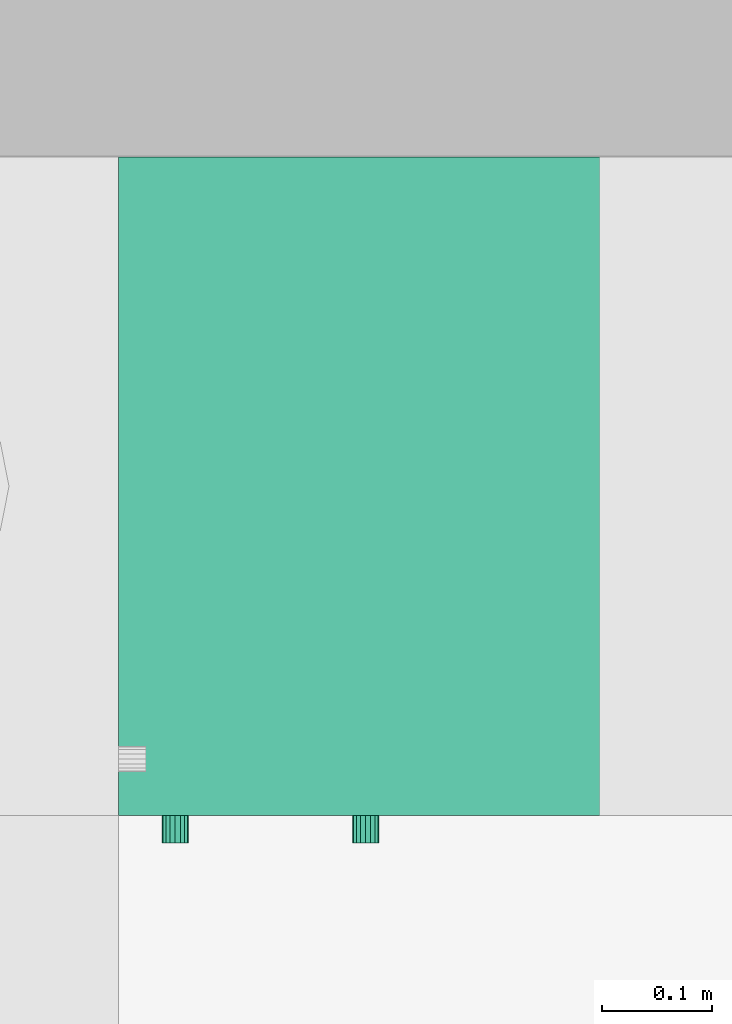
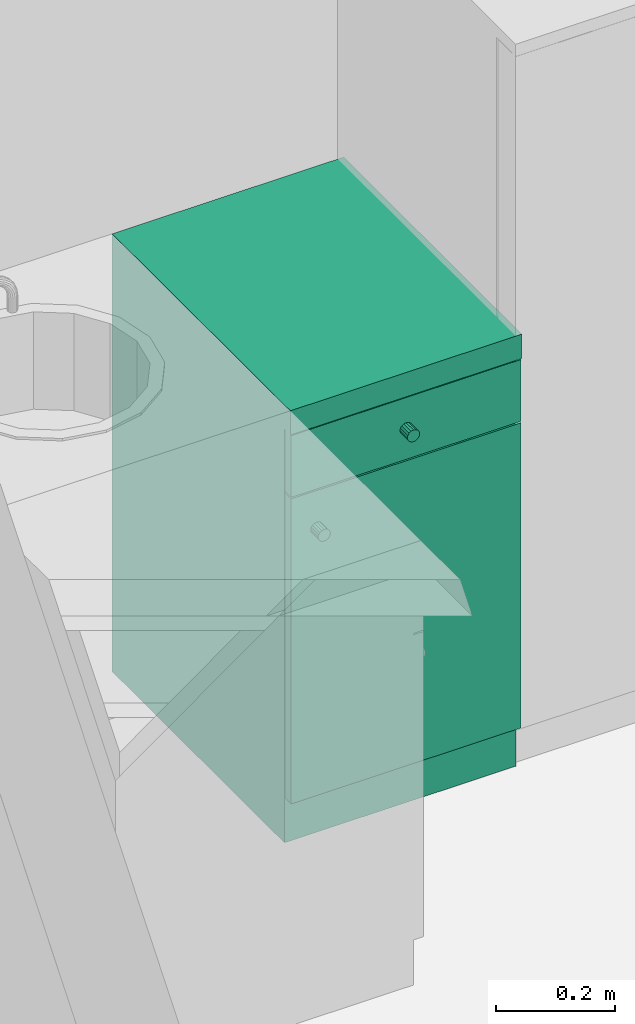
# One storey, part 63 of 172: 1 flow terminal.
"""IFC2X3 building model written with IfcOpenShell, lengths in millimetres."""

from ifc_helpers import new_model, entity, si_unit, converted_unit, money_unit, direction, frame, origin_with_axes, place, context, subcontext, project, spatial, faceted_brep, source, transform, mapped, material, material_list, type_object, element, save


model = new_model("IFC2X3")

# Units and contexts
model_context = context("Model", 3, precision=1e-05, world=origin_with_axes(), true_north=direction((0.0, 1.0)))
body_context = subcontext(model_context, "Body", "Model", "MODEL_VIEW")
ifc_project = project(units=[si_unit("LENGTHUNIT", "METRE", prefix="MILLI"), si_unit("AREAUNIT", "SQUARE_METRE"), si_unit("VOLUMEUNIT", "CUBIC_METRE"), converted_unit("PLANEANGLEUNIT", "DEGREE", entity("IfcPlaneAngleMeasure", 0.0174532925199), si_unit("PLANEANGLEUNIT", "RADIAN"), dimensions=[0, 0, 0, 0, 0, 0, 0]), si_unit("SOLIDANGLEUNIT", "STERADIAN"), money_unit("USD"), converted_unit("TIMEUNIT", "Year", entity("IfcTimeMeasure", 31556926.0), si_unit("TIMEUNIT", "SECOND"), dimensions=[0, 0, 0, 0, 0, 0, 0]), si_unit("MASSUNIT", "GRAM"), si_unit("THERMODYNAMICTEMPERATUREUNIT", "DEGREE_CELSIUS"), si_unit("LUMINOUSINTENSITYUNIT", "LUMEN")], contexts=[model_context])

# Site, building, storey
site_placement = place(None, origin_with_axes())
site = spatial("IfcSite", under=ifc_project, at=site_placement, Name="Site", CompositionType="ELEMENT")
building_placement = place(site_placement, origin_with_axes())
building = spatial("IfcBuilding", under=site, at=building_placement, Name="Building", CompositionType="ELEMENT")
storey_placement = place(building_placement, frame((0.0, 0.0, 3200.0), z_axis=(0.0, 0.0, 1.0), x_axis=(1.0, 0.0, 0.0)))
storey = spatial("IfcBuildingStorey", under=building, at=storey_placement, Name="3KORRUS", CompositionType="ELEMENT", Elevation=3200.0)

# Flow terminal
ifc_material = material(Name="Background")
ifc_material_list = material_list([ifc_material])
sanitary_terminal_type = type_object("IfcSanitaryTerminalType", Name="Cabinet Base Single Door 19", PredefinedType="SINK")
shared_shape = source(origin_with_axes(), body_context, "Body", "Brep", [
    faceted_brep([(-20.0, 20.0, 710.0), (-20.0, 20.0, 730.0), (-430.0, 20.0, 730.0), (-430.0, 20.0, 710.0), (-20.0, 580.0, 710.0), (-20.0, 580.0, 730.0), (-430.0, 580.0, 730.0), (-430.0, 580.0, 710.0)], [[[0, 1, 2, 3]], [[4, 5, 1, 0]], [[1, 5, 6, 2]], [[3, 2, 6, 7]], [[0, 3, 7, 4]], [[7, 6, 5, 4]]]),
    faceted_brep([(0.0, 20.0, 0.0), (0.0, 20.0, 90.0), (-450.0, 20.0, 90.0), (-450.0, 20.0, 0.0), (0.0, 600.0, 0.0), (0.0, 600.0, 90.0), (-450.0, 600.0, 90.0), (-450.0, 600.0, 0.0)], [[[0, 1, 2, 3]], [[4, 5, 1, 0]], [[1, 5, 6, 2]], [[3, 2, 6, 7]], [[0, 3, 7, 4]], [[7, 6, 5, 4]]]),
    faceted_brep([(0.0, 20.0, 830.0), (0.0, 20.0, 850.0), (-20.0, 20.0, 850.0), (-20.0, 20.0, 830.0), (0.0, 600.0, 830.0), (0.0, 600.0, 850.0), (-20.0, 600.0, 850.0), (-430.0, 600.0, 850.0), (-450.0, 600.0, 850.0), (-450.0, 20.0, 850.0), (-430.0, 20.0, 850.0), (-430.0, 20.0, 830.0), (-450.0, 20.0, 830.0), (-450.0, 600.0, 830.0), (-430.0, 600.0, 830.0), (-20.0, 600.0, 830.0)], [[[0, 1, 2, 3]], [[4, 5, 1, 0]], [[1, 5, 6, 7, 8, 9, 10, 2]], [[3, 2, 10, 11]], [[0, 3, 11, 12, 13, 14, 15, 4]], [[15, 6, 5, 4]], [[14, 7, 6, 15]], [[13, 8, 7, 14]], [[12, 9, 8, 13]], [[11, 10, 9, 12]]]),
    faceted_brep([(0.0, 20.0, 90.0), (0.0, 20.0, 110.0), (-20.0, 20.0, 110.0), (-20.0, 20.0, 90.0), (0.0, 600.0, 90.0), (0.0, 600.0, 110.0), (-20.0, 600.0, 110.0), (-430.0, 600.0, 110.0), (-450.0, 600.0, 110.0), (-450.0, 20.0, 110.0), (-430.0, 20.0, 110.0), (-430.0, 20.0, 90.0), (-450.0, 20.0, 90.0), (-450.0, 600.0, 90.0), (-430.0, 600.0, 90.0), (-20.0, 600.0, 90.0)], [[[0, 1, 2, 3]], [[4, 5, 1, 0]], [[1, 5, 6, 7, 8, 9, 10, 2]], [[3, 2, 10, 11]], [[0, 3, 11, 12, 13, 14, 15, 4]], [[15, 6, 5, 4]], [[14, 7, 6, 15]], [[13, 8, 7, 14]], [[12, 9, 8, 13]], [[11, 10, 9, 12]]]),
    faceted_brep([(0.0, 20.0, 110.0), (0.0, 20.0, 830.0), (-20.0, 20.0, 830.0), (-20.0, 20.0, 110.0), (0.0, 600.0, 110.0), (0.0, 600.0, 830.0), (-450.0, 600.0, 830.0), (-450.0, 20.0, 830.0), (-430.0, 20.0, 830.0), (-430.0, 580.0, 830.0), (-20.0, 580.0, 830.0), (-20.0, 580.0, 110.0), (-430.0, 580.0, 110.0), (-430.0, 20.0, 110.0), (-450.0, 20.0, 110.0), (-450.0, 600.0, 110.0)], [[[0, 1, 2, 3]], [[4, 5, 1, 0]], [[1, 5, 6, 7, 8, 9, 10, 2]], [[3, 2, 10, 11]], [[0, 3, 11, 12, 13, 14, 15, 4]], [[15, 6, 5, 4]], [[14, 7, 6, 15]], [[13, 8, 7, 14]], [[12, 9, 8, 13]], [[11, 10, 9, 12]]]),
    faceted_brep([(-430.0, 20.0, 385.0), (-430.0, 20.0, 405.0), (-430.0, 580.0, 405.0), (-430.0, 580.0, 385.0), (-20.0, 20.0, 385.0), (-20.0, 20.0, 405.0), (-20.0, 580.0, 405.0), (-20.0, 580.0, 385.0)], [[[0, 1, 2, 3]], [[4, 5, 1, 0]], [[1, 5, 6, 2]], [[3, 2, 6, 7]], [[0, 3, 7, 4]], [[7, 6, 5, 4]]]),
    faceted_brep([(0.0, 0.0, 850.0), (0.0, 0.0, 900.0), (-450.0, 0.0, 900.0), (-450.0, 0.0, 850.0), (0.0, 600.0, 850.0), (0.0, 600.0, 900.0), (-450.0, 600.0, 900.0), (-450.0, 600.0, 850.0)], [[[0, 1, 2, 3]], [[4, 5, 1, 0]], [[1, 5, 6, 2]], [[3, 2, 6, 7]], [[0, 3, 7, 4]], [[7, 6, 5, 4]]]),
    faceted_brep([(-1.5, 20.0, 721.5), (-1.5, 0.0, 721.5), (-448.5, 0.0, 721.5), (-448.5, 20.0, 721.5), (-1.5, 20.0, 848.5), (-1.5, 0.0, 848.5), (-448.5, 0.0, 848.5), (-448.5, 20.0, 848.5)], [[[0, 1, 2, 3]], [[4, 5, 1, 0]], [[1, 5, 6, 2]], [[3, 2, 6, 7]], [[0, 3, 7, 4]], [[7, 6, 5, 4]]]),
    faceted_brep([(-220.408, 0.0, 773.913), (-225.0, 0.0, 773.0), (-229.592, 0.0, 773.913), (-233.485, 0.0, 776.515), (-236.087, 0.0, 780.408), (-237.0, 0.0, 785.0), (-236.087, 0.0, 789.592), (-233.485, 0.0, 793.485), (-229.592, 0.0, 796.087), (-225.0, 0.0, 797.0), (-220.408, 0.0, 796.087), (-216.515, 0.0, 793.485), (-213.913, 0.0, 789.592), (-213.0, 0.0, 785.0), (-213.913, 0.0, 780.408), (-216.515, 0.0, 776.515), (-220.408, -25.0, 773.913), (-225.0, -25.0, 773.0), (-229.592, -25.0, 773.913), (-233.485, -25.0, 776.515), (-236.087, -25.0, 780.408), (-237.0, -25.0, 785.0), (-236.087, -25.0, 789.592), (-233.485, -25.0, 793.485), (-229.592, -25.0, 796.087), (-225.0, -25.0, 797.0), (-220.408, -25.0, 796.087), (-216.515, -25.0, 793.485), (-213.913, -25.0, 789.592), (-213.0, -25.0, 785.0), (-213.913, -25.0, 780.408), (-216.515, -25.0, 776.515)], [[[0, 1, 2, 3, 4, 5, 6, 7, 8, 9, 10, 11, 12, 13, 14, 15]], [[0, 16, 17, 1]], [[1, 17, 18, 2]], [[2, 18, 19, 3]], [[3, 19, 20, 4]], [[4, 20, 21, 5]], [[5, 21, 22, 6]], [[6, 22, 23, 7]], [[7, 23, 24, 8]], [[8, 24, 25, 9]], [[9, 25, 26, 10]], [[10, 26, 27, 11]], [[11, 27, 28, 12]], [[12, 28, 29, 13]], [[13, 29, 30, 14]], [[14, 30, 31, 15]], [[15, 31, 16, 0]], [[16, 31, 30, 29, 28, 27, 26, 25, 24, 23, 22, 21, 20, 19, 18, 17]]]),
    faceted_brep([(-1.5, 20.0, 91.5), (-1.5, 0.0, 91.5), (-448.5, 0.0, 91.5), (-448.5, 20.0, 91.5), (-1.5, 20.0, 718.5), (-1.5, 0.0, 718.5), (-448.5, 0.0, 718.5), (-448.5, 20.0, 718.5)], [[[0, 1, 2, 3]], [[4, 5, 1, 0]], [[1, 5, 6, 2]], [[3, 2, 6, 7]], [[0, 3, 7, 4]], [[7, 6, 5, 4]]]),
    faceted_brep([(-409.587, 0.0, 636.908), (-410.5, 0.0, 641.5), (-409.587, 0.0, 646.092), (-406.985, 0.0, 649.985), (-403.092, 0.0, 652.587), (-398.5, 0.0, 653.5), (-393.908, 0.0, 652.587), (-390.015, 0.0, 649.985), (-387.413, 0.0, 646.092), (-386.5, 0.0, 641.5), (-387.413, 0.0, 636.908), (-390.015, 0.0, 633.015), (-393.908, 0.0, 630.413), (-398.5, 0.0, 629.5), (-403.092, 0.0, 630.413), (-406.985, 0.0, 633.015), (-409.587, -25.0, 636.908), (-410.5, -25.0, 641.5), (-409.587, -25.0, 646.092), (-406.985, -25.0, 649.985), (-403.092, -25.0, 652.587), (-398.5, -25.0, 653.5), (-393.908, -25.0, 652.587), (-390.015, -25.0, 649.985), (-387.413, -25.0, 646.092), (-386.5, -25.0, 641.5), (-387.413, -25.0, 636.908), (-390.015, -25.0, 633.015), (-393.908, -25.0, 630.413), (-398.5, -25.0, 629.5), (-403.092, -25.0, 630.413), (-406.985, -25.0, 633.015)], [[[0, 1, 2, 3, 4, 5, 6, 7, 8, 9, 10, 11, 12, 13, 14, 15]], [[0, 16, 17, 1]], [[1, 17, 18, 2]], [[2, 18, 19, 3]], [[3, 19, 20, 4]], [[4, 20, 21, 5]], [[5, 21, 22, 6]], [[6, 22, 23, 7]], [[7, 23, 24, 8]], [[8, 24, 25, 9]], [[9, 25, 26, 10]], [[10, 26, 27, 11]], [[11, 27, 28, 12]], [[12, 28, 29, 13]], [[13, 29, 30, 14]], [[14, 30, 31, 15]], [[15, 31, 16, 0]], [[16, 31, 30, 29, 28, 27, 26, 25, 24, 23, 22, 21, 20, 19, 18, 17]]]),
])
flow_terminal_placement = place(storey_placement, frame((13234.2564771, -9670.3690093, 0.0), z_axis=(0.0, 0.0, 1.0), x_axis=(1.0, 0.0, 0.0)))
element("IfcFlowTerminal", 1, at=flow_terminal_placement, inside=storey, type_object=sanitary_terminal_type, material=ifc_material_list, Name="FU - 007", context=body_context, shape_type="MappedRepresentation", body=[
    mapped(shared_shape, transform((0.0, 0.0, 0.0))),
])

save(model, "model.ifc")
